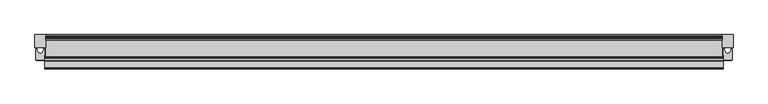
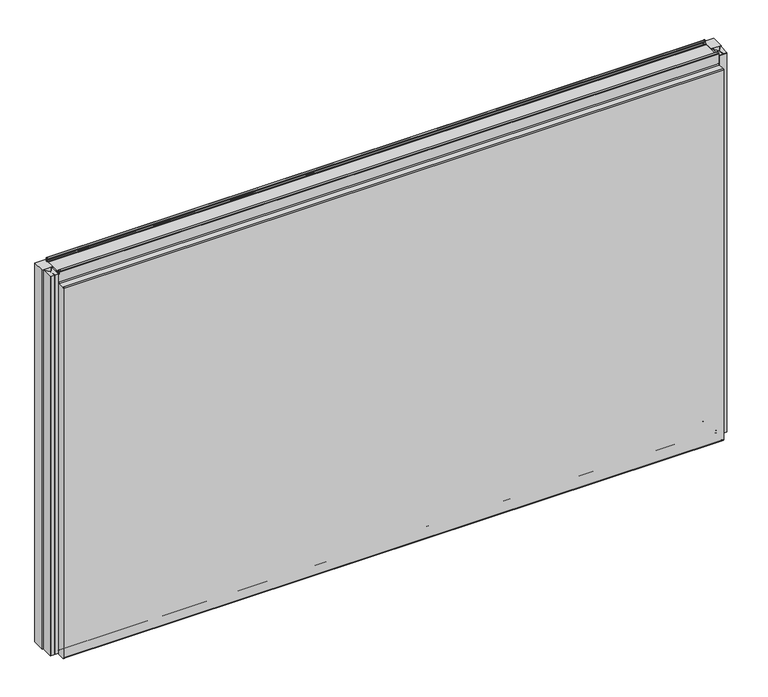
"""IFC4 building model written with IfcOpenShell, lengths in millimetres: plate geometry, Fronttop : Fronttop 100/1200."""

import ifcopenshell
import ifcopenshell.guid

model = None  # the IFC model being written
_history = None  # IfcOwnerHistory: only IFC2X3 demands one
_inside = {}  # id of a spatial element -> (the spatial element, [elements in it])
_under = {}  # id of a project, library or spatial element -> (it, [spatial elements below it])
_declared = {}  # id of a project -> (the project, [libraries it declares])
_typed = {}  # id of a type object -> (the type object, [elements of that type])
_made_of = {}  # id of a material, layer set ... -> (it, [elements and type objects made of it])


def new_model(schema):
    """Start an empty IFC model of exactly this schema.

    Asked for "IFC4X3", IfcOpenShell would pick the latest addendum, in which some entities
    have other attributes; the version numbers below select the first issue.
    IFC2X3 requires an IfcOwnerHistory on every rooted entity: one is made here for all.
    """
    global model, _history
    if schema == "IFC4X3":
        model = ifcopenshell.file(schema_version=(4, 3, 0, 0))
    else:
        model = ifcopenshell.file(schema=schema)
    _inside.clear()
    _under.clear()
    _declared.clear()
    _typed.clear()
    _made_of.clear()
    _history = None
    if model.schema == "IFC2X3":
        org = make("IfcOrganization", Name="unknown")
        user = make(
            "IfcPersonAndOrganization",
            ThePerson=make("IfcPerson", FamilyName="unknown"),
            TheOrganization=org,
        )
        app = make(
            "IfcApplication",
            ApplicationDeveloper=org,
            Version="unknown",
            ApplicationFullName="unknown",
            ApplicationIdentifier="unknown",
        )
        _history = make(
            "IfcOwnerHistory",
            OwningUser=user,
            OwningApplication=app,
            ChangeAction="ADDED",
            CreationDate=0,
        )
    return model


def make(cls, **values):
    """One entity of the class cls with the attributes given. An attribute that is None is left unset."""
    return model.create_entity(
        cls, **{name: value for name, value in values.items() if value is not None}
    )


def rooted(cls, **values):
    """An entity with a GlobalId (a new one), such as an element, a storey or a relation."""
    return make(cls, GlobalId=ifcopenshell.guid.new(), OwnerHistory=_history, **values)


def si_unit(unit_type, name, prefix=None):
    """IfcSIUnit, for example si_unit("LENGTHUNIT", "METRE", prefix="MILLI")."""
    return make("IfcSIUnit", UnitType=unit_type, Prefix=prefix, Name=name)


def assignment(units):
    """IfcUnitAssignment: the units of a project."""
    return None if units is None else make("IfcUnitAssignment", Units=units)


def point(xyz):
    """IfcCartesianPoint."""
    return None if xyz is None else make("IfcCartesianPoint", Coordinates=xyz)


def direction(xyz):
    """IfcDirection."""
    return None if xyz is None else make("IfcDirection", DirectionRatios=xyz)


def frame(location, z_axis=None, x_axis=None):
    """IfcAxis2Placement3D, a coordinate frame: its origin and axes. An axis left out is left unset."""
    return make(
        "IfcAxis2Placement3D",
        Location=point(location),
        Axis=direction(z_axis),
        RefDirection=direction(x_axis),
    )


def frame_2d(location, x_axis=None):
    """IfcAxis2Placement2D, a coordinate frame in the plane: its origin and x axis."""
    return make(
        "IfcAxis2Placement2D", Location=point(location), RefDirection=direction(x_axis)
    )


def origin():
    """The frame at (0, 0, 0) with its axes left unset."""
    return frame((0.0, 0.0, 0.0))


def origin_with_axes():
    """The frame at (0, 0, 0) with the z axis (0, 0, 1) and the x axis (1, 0, 0) written out."""
    return frame((0.0, 0.0, 0.0), z_axis=(0.0, 0.0, 1.0), x_axis=(1.0, 0.0, 0.0))


def place(relative_to, where):
    """IfcLocalPlacement: puts the frame where relative to a parent placement (None: the world)."""
    return make(
        "IfcLocalPlacement", PlacementRelTo=relative_to, RelativePlacement=where
    )


def context(
    kind, dimensions, precision=None, world=None, true_north=None, identifier=None
):
    """IfcGeometricRepresentationContext, for example the 3D "Model" context."""
    return make(
        "IfcGeometricRepresentationContext",
        ContextIdentifier=identifier,
        ContextType=kind,
        CoordinateSpaceDimension=dimensions,
        Precision=precision,
        WorldCoordinateSystem=world,
        TrueNorth=true_north,
    )


def project(units=None, contexts=None):
    """IfcProject with its units and contexts."""
    return rooted(
        "IfcProject",
        Name="project",
        RepresentationContexts=contexts,
        UnitsInContext=assignment(units),
    )


def spatial(cls, under=None, at=None, **own):
    """A site, building, storey or space (cls), placed at a placement, below another one or the project."""
    s = rooted(cls, ObjectPlacement=at, **own)
    if under is not None:
        _under.setdefault(under.id(), (under, []))[1].append(s)
    return s


def polyline(points):
    """IfcPolyline through the points."""
    return make("IfcPolyline", Points=[point(p) for p in points])


def circle_curve(where, radius):
    """IfcCircle in the frame where."""
    return make("IfcCircle", Position=where, Radius=radius)


def trimmed(basis, trim1, trim2, sense, master):
    """IfcTrimmedCurve: the piece of a basis curve between two trims."""
    return make(
        "IfcTrimmedCurve",
        BasisCurve=basis,
        Trim1=trim1,
        Trim2=trim2,
        SenseAgreement=sense,
        MasterRepresentation=master,
    )


def segment(curve, same_sense, transition):
    """IfcCompositeCurveSegment."""
    return make(
        "IfcCompositeCurveSegment",
        Transition=transition,
        SameSense=same_sense,
        ParentCurve=curve,
    )


def composite_curve(segments, self_intersect=None):
    """IfcCompositeCurve: segments joined end to end."""
    return make("IfcCompositeCurve", Segments=segments, SelfIntersect=self_intersect)


def outline(outer, holes=None, kind="AREA"):
    """IfcArbitraryClosedProfileDef: a profile drawn as a closed curve; with holes, ...WithVoids."""
    if holes is None:
        return make("IfcArbitraryClosedProfileDef", ProfileType=kind, OuterCurve=outer)
    return make(
        "IfcArbitraryProfileDefWithVoids",
        ProfileType=kind,
        OuterCurve=outer,
        InnerCurves=holes,
    )


def extrude(swept, where, along, depth):
    """IfcExtrudedAreaSolid: the profile swept, set in the frame where, extruded along a direction by depth."""
    return make(
        "IfcExtrudedAreaSolid",
        SweptArea=swept,
        Position=where,
        ExtrudedDirection=direction(along),
        Depth=depth,
    )


def shape(context_of_items, identifier, shape_type, items):
    """IfcShapeRepresentation: the items that make up one representation, for example the "Body"."""
    return make(
        "IfcShapeRepresentation",
        ContextOfItems=context_of_items,
        RepresentationIdentifier=identifier,
        RepresentationType=shape_type,
        Items=items,
    )


def source(mapping_origin, context_of_items, identifier, shape_type, items):
    """IfcRepresentationMap: a shape defined once, which mapped items show again and again."""
    return make(
        "IfcRepresentationMap",
        MappingOrigin=mapping_origin,
        MappedRepresentation=shape(context_of_items, identifier, shape_type, items),
    )


def transform(
    local_origin,
    x_axis=None,
    y_axis=None,
    z_axis=None,
    scale=None,
    scale2=None,
    scale3=None,
    uniform=True,
):
    """IfcCartesianTransformationOperator3D, or its non-uniform kind. x_axis, y_axis, z_axis: its Axis1, 2, 3."""
    if uniform:
        return make(
            "IfcCartesianTransformationOperator3D",
            Axis1=direction(x_axis),
            Axis2=direction(y_axis),
            LocalOrigin=point(local_origin),
            Scale=scale,
            Axis3=direction(z_axis),
        )
    return make(
        "IfcCartesianTransformationOperator3DnonUniform",
        Axis1=direction(x_axis),
        Axis2=direction(y_axis),
        LocalOrigin=point(local_origin),
        Scale=scale,
        Axis3=direction(z_axis),
        Scale2=scale2,
        Scale3=scale3,
    )


def mapped(mapping_source, mapping_target):
    """IfcMappedItem: shows the shape of a source again, moved by a transform."""
    return make(
        "IfcMappedItem", MappingSource=mapping_source, MappingTarget=mapping_target
    )


def made_of(thing, what):
    """Note that an element or type object is made of a material, layer set ...; save() writes the relation."""
    if what is not None:
        _made_of.setdefault(what.id(), (what, []))[1].append(thing)
    return thing


def element(
    cls,
    number,
    at=None,
    inside=None,
    cuts=None,
    type_object=None,
    material=None,
    context=None,
    identifier="Body",
    shape_type=None,
    held_by="IfcProductDefinitionShape",
    body=None,
    shapes=None,
    **own,
):
    """One element of the class cls, such as IfcWall. Its Tag is "e" and its number.

    at: its placement. inside: the storey or other place that contains it. cuts: it is an
    opening in that element (IfcRelVoidsElement). A single representation is given by context,
    identifier, shape_type and body (its items); several are given by shapes. held_by: the class
    of the entity that holds the representations. save() writes the other relations.
    """
    e = rooted(cls, Tag="e%d" % number, ObjectPlacement=at, **own)
    if body is not None:
        shapes = [shape(context, identifier, shape_type, body)]
    if shapes is not None:
        e.Representation = make(held_by, Representations=shapes)
    if inside is not None:
        _inside.setdefault(inside.id(), (inside, []))[1].append(e)
    if cuts is not None:
        rooted(
            "IfcRelVoidsElement", RelatingBuildingElement=cuts, RelatedOpeningElement=e
        )
    if type_object is not None:
        _typed.setdefault(type_object.id(), (type_object, []))[1].append(e)
    return made_of(e, material)


def aggregate(whole, parts):
    """IfcRelAggregates: a whole, such as a stair, and the parts it consists of."""
    return rooted("IfcRelAggregates", RelatingObject=whole, RelatedObjects=parts)


def save(model, path):
    """Write the relations noted so far, then the file.

    IfcRelAggregates (storeys below a building ...), IfcRelContainedInSpatialStructure (elements
    in a storey), IfcRelDefinesByType, IfcRelAssociatesMaterial and IfcRelDeclares: one each for
    every whole, place, type object, material and project.
    """
    for whole, parts in _under.values():
        aggregate(whole, parts)
    for where, things in _inside.values():
        rooted(
            "IfcRelContainedInSpatialStructure",
            RelatedElements=things,
            RelatingStructure=where,
        )
    for kind, things in _typed.values():
        rooted("IfcRelDefinesByType", RelatedObjects=things, RelatingType=kind)
    for what, things in _made_of.values():
        rooted("IfcRelAssociatesMaterial", RelatedObjects=things, RelatingMaterial=what)
    for by, libraries in _declared.values():
        rooted("IfcRelDeclares", RelatingContext=by, RelatedDefinitions=libraries)
    model.write(path)


def plane_surface(at):
    """IfcPlane: the flat surface through the origin of the frame at, square to its z axis."""
    return make("IfcPlane", Position=at)


def cylinder_surface(at, radius):
    """IfcCylindricalSurface: all points at the distance radius from the z axis of the frame at."""
    return make("IfcCylindricalSurface", Position=at, Radius=radius)


def revolved_surface(curve, axis_point, axis_direction):
    """IfcSurfaceOfRevolution: the curve turned about the line through axis_point along axis_direction."""
    return make(
        "IfcSurfaceOfRevolution",
        SweptCurve=make("IfcArbitraryOpenProfileDef", ProfileType="CURVE", Curve=curve),
        AxisPosition=make("IfcAxis1Placement", Location=point(axis_point), Axis=direction(axis_direction)),
    )


def advanced_brep(points, edges, surfaces, faces):
    """IfcAdvancedBrep: a solid bounded by faces that lie on surfaces and meet in shared edges.

    An edge is (start, end): straight between two places in points (the first is 0);
    or (start, end, curve); or (start, end, curve, False) where it runs against its curve.
    A face is (place in surfaces, loops), or (place, loops, False) where it looks against
    its surface's normal. A loop lists edges by number (the first is 1), with a minus sign
    where the edge is run from its end to its start. The first loop is the outer one.
    """
    corners = [point(p) for p in points]
    vertices = [make("IfcVertexPoint", VertexGeometry=c) for c in corners]
    made = []
    for start, end, *more in edges:
        made.append(
            make(
                "IfcEdgeCurve",
                EdgeStart=vertices[start],
                EdgeEnd=vertices[end],
                EdgeGeometry=more[0] if more else make("IfcPolyline", Points=[corners[start], corners[end]]),
                SameSense=more[1] if len(more) > 1 else True,
            )
        )
    hull = []
    for where, loops, *sense in faces:
        bounds = []
        for j, loop in enumerate(loops):
            ring = [make("IfcOrientedEdge", EdgeElement=made[abs(k) - 1], Orientation=k > 0) for k in loop]
            bounds.append(
                make(
                    "IfcFaceOuterBound" if j == 0 else "IfcFaceBound",
                    Bound=make("IfcEdgeLoop", EdgeList=ring),
                    Orientation=True,
                )
            )
        hull.append(make("IfcAdvancedFace", Bounds=bounds, FaceSurface=surfaces[where], SameSense=sense[0] if sense else True))
    return make("IfcAdvancedBrep", Outer=make("IfcClosedShell", CfsFaces=hull))


def plate_79874e8c(model_context):
    return source(origin(), model_context, "Body", "SolidModel", [
        advanced_brep(
        [(-986.5, -74.0, 1208.0), (-986.5, -74.0, 1200.0), (-986.5, -75.0, 1200.0), (-986.5, -75.0, 1208.0), (-986.5, -70.0, 1208.0), (-986.5, -70.0, 1204.0), (-986.5, -67.0, 1201.0), (-986.5, -65.0, 1201.0), (-986.5, -65.0, 1200.0), (-986.5, -67.0, 1200.0), (-986.5, -71.0, 1204.0), (-986.5, -71.0, 1208.0), (986.5, -75.0, 1208.0), (986.5, -75.0, 1200.0), (986.5, -74.0, 1200.0), (986.5, -74.0, 1208.0), (986.5, -71.0, 1208.0), (986.5, -71.0, 1204.0), (986.5, -67.0, 1200.0), (986.5, -65.0, 1200.0), (986.5, -65.0, 1201.0), (986.5, -67.0, 1201.0), (986.5, -70.0, 1204.0), (986.5, -70.0, 1208.0), (-986.5, -67.0, 2.0), (-986.5, -65.0, 2.0), (986.5, -65.0, 2.0), (986.5, -67.0, 2.0), (986.5, -69.0, 4.0), (-986.5, -69.0, 4.0), (986.5, -69.0, 8.0), (-986.5, -69.0, 8.0), (986.5, -76.0, 8.0), (-986.5, -76.0, 8.0), (986.5, -76.0, 0.0), (-986.5, -76.0, 0.0), (986.5, -79.0, -3.0), (-986.5, -79.0, -3.0), (986.5, -75.0, -3.0), (987.5, -75.0, -3.0), (987.5, -97.0, -3.0), (986.5, -97.0, -3.0), (-986.5, -97.0, -3.0), (-987.5, -97.0, -3.0), (-987.5, -75.0, -3.0), (-986.5, -75.0, -3.0), (986.5, -100.0, 0.0), (-986.5, -100.0, 0.0), (987.5, -100.0, 0.0), (987.5, -100.0, 1169.0), (986.5, -100.0, 1169.0), (-986.5, -100.0, 1169.0), (-987.5, -100.0, 1169.0), (-987.5, -100.0, 0.0), (986.5, -97.0, 1172.0), (-986.5, -97.0, 1172.0), (987.5, -97.0, 1172.0), (987.5, -78.0, 1172.0), (986.5, -78.0, 1172.0), (-986.5, -78.0, 1172.0), (-987.5, -78.0, 1172.0), (-987.5, -97.0, 1172.0), (986.5, -75.0, 1175.0), (-986.5, -75.0, 1175.0), (987.5, -75.0, 1175.0), (987.5, -75.0, 1200.0), (-987.5, -75.0, 1200.0), (-987.5, -75.0, 1175.0), (986.5, -74.0, 1175.0), (-986.5, -74.0, 1175.0), (986.5, -78.0, 1171.0), (-986.5, -78.0, 1171.0), (986.5, -97.0, 1171.0), (-986.5, -97.0, 1171.0), (986.5, -99.0, 1169.0), (-986.5, -99.0, 1169.0), (986.5, -99.0, 0.0), (-986.5, -99.0, 0.0), (986.5, -97.0, -2.0), (-986.5, -97.0, -2.0), (986.5, -79.0, -2.0), (-986.5, -79.0, -2.0), (986.5, -77.0, 0.0), (-986.5, -77.0, 0.0), (986.5, -77.0, 8.0), (-986.5, -77.0, 8.0), (986.5, -68.0, 8.0), (-986.5, -68.0, 8.0), (986.5, -68.0, 4.0), (-986.5, -68.0, 4.0), (986.5, -67.0, 3.0), (-986.5, -67.0, 3.0), (986.5, -65.0, 3.0), (-986.5, -65.0, 3.0), (987.5, -75.0, 0.0), (987.5, -60.0, 0.0), (987.5, -60.0, 1200.0), (986.5, -60.0, 1200.0), (986.5, -60.0, 0.0), (986.5, -75.0, 0.0), (-987.5, -60.0, 1200.0), (-987.5, -60.0, 0.0), (-987.5, -75.0, 0.0), (-986.5, -60.0, 1200.0), (-986.5, -75.0, 0.0), (-986.5, -60.0, 0.0)],
        [
            (0, 1),
            (1, 2),
            (2, 3),
            (3, 4, circle_curve(frame((-986.5, -72.5, 1208.0), z_axis=(-1.0, 0.0, 0.0), x_axis=(0.0, 1.0, 0.0)), 2.5)),
            (4, 5),
            (5, 6, circle_curve(frame((-986.5, -67.0, 1204.0), z_axis=(1.0, 0.0, 0.0), x_axis=(0.0, 1.0, 0.0)), 3.0)),
            (6, 7),
            (7, 8),
            (8, 9),
            (9, 10, circle_curve(frame((-986.5, -67.0, 1204.0), z_axis=(-1.0, 0.0, 0.0), x_axis=(0.0, 1.0, 0.0)), 4.0)),
            (10, 11),
            (11, 0, circle_curve(frame((-986.5, -72.5, 1208.0), z_axis=(1.0, 0.0, 0.0), x_axis=(0.0, 1.0, 0.0)), 1.5)),
            (12, 13),
            (13, 14),
            (14, 15),
            (15, 16, circle_curve(frame((986.5, -72.5, 1208.0), z_axis=(-1.0, 0.0, 0.0), x_axis=(0.0, 1.0, 0.0)), 1.5)),
            (16, 17),
            (17, 18, circle_curve(frame((986.5, -67.0, 1204.0), z_axis=(1.0, 0.0, 0.0), x_axis=(0.0, 1.0, 0.0)), 4.0)),
            (18, 19),
            (19, 20),
            (20, 21),
            (21, 22, circle_curve(frame((986.5, -67.0, 1204.0), z_axis=(-1.0, 0.0, 0.0), x_axis=(0.0, 1.0, 0.0)), 3.0)),
            (22, 23),
            (23, 12, circle_curve(frame((986.5, -72.5, 1208.0), z_axis=(1.0, 0.0, 0.0), x_axis=(0.0, 1.0, 0.0)), 2.5)),
            (24, 25),
            (25, 26),
            (26, 27),
            (27, 24),
            (27, 28, circle_curve(frame((986.5, -67.0, 4.0), z_axis=(-1.0, 0.0, 0.0), x_axis=(0.0, 1.0, 0.0)), 2.0)),
            (28, 29),
            (29, 24, circle_curve(frame((-986.5, -67.0, 4.0), z_axis=(1.0, 0.0, 0.0), x_axis=(0.0, 1.0, 0.0)), 2.0)),
            (28, 30),
            (30, 31),
            (31, 29),
            (30, 32, circle_curve(frame((986.5, -72.5, 8.0), z_axis=(1.0, 0.0, 0.0), x_axis=(0.0, 1.0, 0.0)), 3.5)),
            (32, 33),
            (33, 31, circle_curve(frame((-986.5, -72.5, 8.0), z_axis=(-1.0, 0.0, 0.0), x_axis=(0.0, 1.0, 0.0)), 3.5)),
            (32, 34),
            (34, 35),
            (35, 33),
            (34, 36, circle_curve(frame((986.5, -79.0, 0.0), z_axis=(-1.0, 0.0, 0.0), x_axis=(0.0, 1.0, 0.0)), 3.0)),
            (36, 37),
            (37, 35, circle_curve(frame((-986.5, -79.0, 0.0), z_axis=(1.0, 0.0, 0.0), x_axis=(0.0, 1.0, 0.0)), 3.0)),
            (36, 38),
            (38, 39),
            (39, 40),
            (40, 41),
            (41, 42),
            (42, 43),
            (43, 44),
            (44, 45),
            (45, 37),
            (41, 46, circle_curve(frame((986.5, -97.0, 0.0), z_axis=(-1.0, 0.0, 0.0), x_axis=(0.0, 1.0, 0.0)), 3.0)),
            (46, 47),
            (47, 42, circle_curve(frame((-986.5, -97.0, 0.0), z_axis=(1.0, 0.0, 0.0), x_axis=(0.0, 1.0, 0.0)), 3.0)),
            (46, 48),
            (48, 49),
            (49, 50),
            (50, 51),
            (51, 52),
            (52, 53),
            (53, 47),
            (50, 54, circle_curve(frame((986.5, -97.0, 1169.0), z_axis=(-1.0, 0.0, 0.0), x_axis=(0.0, 1.0, 0.0)), 3.0)),
            (54, 55),
            (55, 51, circle_curve(frame((-986.5, -97.0, 1169.0), z_axis=(1.0, 0.0, 0.0), x_axis=(0.0, 1.0, 0.0)), 3.0)),
            (54, 56),
            (56, 57),
            (57, 58),
            (58, 59),
            (59, 60),
            (60, 61),
            (61, 55),
            (58, 62, circle_curve(frame((986.5, -78.0, 1175.0), z_axis=(1.0, 0.0, 0.0), x_axis=(0.0, 1.0, 0.0)), 3.0)),
            (62, 63),
            (63, 59, circle_curve(frame((-986.5, -78.0, 1175.0), z_axis=(-1.0, 0.0, 0.0), x_axis=(0.0, 1.0, 0.0)), 3.0)),
            (62, 64),
            (64, 65),
            (65, 13),
            (12, 3),
            (2, 66),
            (66, 67),
            (67, 63),
            (23, 4),
            (22, 5),
            (21, 6),
            (20, 7),
            (19, 8),
            (19, 18),
            (18, 9),
            (9, 8),
            (17, 10),
            (16, 11),
            (15, 0),
            (14, 68),
            (68, 69),
            (69, 1),
            (68, 70, circle_curve(frame((986.5, -78.0, 1175.0), z_axis=(-1.0, 0.0, 0.0), x_axis=(0.0, 1.0, 0.0)), 4.0)),
            (70, 71),
            (71, 69, circle_curve(frame((-986.5, -78.0, 1175.0), z_axis=(1.0, 0.0, 0.0), x_axis=(0.0, 1.0, 0.0)), 4.0)),
            (70, 72),
            (72, 73),
            (73, 71),
            (72, 74, circle_curve(frame((986.5, -97.0, 1169.0), z_axis=(1.0, 0.0, 0.0), x_axis=(0.0, 1.0, 0.0)), 2.0)),
            (74, 75),
            (75, 73, circle_curve(frame((-986.5, -97.0, 1169.0), z_axis=(-1.0, 0.0, 0.0), x_axis=(0.0, 1.0, 0.0)), 2.0)),
            (74, 76),
            (76, 77),
            (77, 75),
            (76, 78, circle_curve(frame((986.5, -97.0, 0.0), z_axis=(1.0, 0.0, 0.0), x_axis=(0.0, 1.0, 0.0)), 2.0)),
            (78, 79),
            (79, 77, circle_curve(frame((-986.5, -97.0, 0.0), z_axis=(-1.0, 0.0, 0.0), x_axis=(0.0, 1.0, 0.0)), 2.0)),
            (78, 80),
            (80, 81),
            (81, 79),
            (80, 82, circle_curve(frame((986.5, -79.0, 0.0), z_axis=(1.0, 0.0, 0.0), x_axis=(0.0, 1.0, 0.0)), 2.0)),
            (82, 83),
            (83, 81, circle_curve(frame((-986.5, -79.0, 0.0), z_axis=(-1.0, 0.0, 0.0), x_axis=(0.0, 1.0, 0.0)), 2.0)),
            (82, 84),
            (84, 85),
            (85, 83),
            (84, 86, circle_curve(frame((986.5, -72.5, 8.0), z_axis=(-1.0, 0.0, 0.0), x_axis=(0.0, 1.0, 0.0)), 4.5)),
            (86, 87),
            (87, 85, circle_curve(frame((-986.5, -72.5, 8.0), z_axis=(1.0, 0.0, 0.0), x_axis=(0.0, 1.0, 0.0)), 4.5)),
            (86, 88),
            (88, 89),
            (89, 87),
            (88, 90, circle_curve(frame((986.5, -67.0, 4.0), z_axis=(1.0, 0.0, 0.0), x_axis=(0.0, 1.0, 0.0)), 1.0)),
            (90, 91),
            (91, 89, circle_curve(frame((-986.5, -67.0, 4.0), z_axis=(-1.0, 0.0, 0.0), x_axis=(0.0, 1.0, 0.0)), 1.0)),
            (90, 92),
            (92, 93),
            (93, 91),
            (25, 93),
            (92, 26),
            (64, 57, circle_curve(frame((987.5, -78.0, 1175.0), z_axis=(-1.0, 0.0, 0.0), x_axis=(0.0, -1.0, 0.0)), 3.0)),
            (56, 49, circle_curve(frame((987.5, -97.0, 1169.0), z_axis=(1.0, 0.0, 0.0), x_axis=(0.0, -1.0, 0.0)), 3.0)),
            (48, 40, circle_curve(frame((987.5, -97.0, 0.0), z_axis=(1.0, 0.0, 0.0), x_axis=(0.0, -1.0, 0.0)), 3.0)),
            (39, 94),
            (94, 95),
            (95, 96),
            (96, 65),
            (14, 18),
            (19, 97),
            (97, 98),
            (98, 99),
            (99, 38),
            (96, 97),
            (95, 98),
            (94, 99),
            (66, 100),
            (100, 101),
            (101, 102),
            (102, 44),
            (43, 53, circle_curve(frame((-987.5, -97.0, 0.0), z_axis=(-1.0, 0.0, 0.0), x_axis=(0.0, -1.0, 0.0)), 3.0)),
            (52, 61, circle_curve(frame((-987.5, -97.0, 1169.0), z_axis=(-1.0, 0.0, 0.0), x_axis=(0.0, -1.0, 0.0)), 3.0)),
            (60, 67, circle_curve(frame((-987.5, -78.0, 1175.0), z_axis=(1.0, 0.0, 0.0), x_axis=(0.0, -1.0, 0.0)), 3.0)),
            (103, 8),
            (9, 1),
            (45, 104),
            (104, 105),
            (105, 103),
            (103, 100),
            (105, 101),
            (104, 102),
        ],
        [
            plane_surface(frame((-986.5, 0.0, 0.0), z_axis=(-1.0, 0.0, 0.0), x_axis=(0.0, 0.0, 1.0))),
            plane_surface(frame((986.5, 0.0, 0.0), z_axis=(1.0, 0.0, 0.0), x_axis=(0.0, 0.0, 1.0))),
            plane_surface(frame((-986.5, -67.0, 2.0), z_axis=(0.0, 0.0, -1.0), x_axis=(1.0, 0.0, 0.0))),
            cylinder_surface(frame((-986.5, -67.0, 4.0), z_axis=(-1.0, 0.0, 0.0), x_axis=(0.0, 1.0, 0.0)), 2.0),
            plane_surface(frame((-986.5, -69.0, 8.0), z_axis=(0.0, -1.0, 0.0), x_axis=(1.0, 0.0, 0.0))),
            revolved_surface(polyline([(986.5, -69.0, 8.0), (-986.5, -69.0, 8.0)]), (-986.5, -72.5, 8.0), (1.0, 0.0, 0.0)),
            plane_surface(frame((-986.5, -76.0, 0.0), z_axis=(0.0, 1.0, 0.0), x_axis=(1.0, 0.0, 0.0))),
            cylinder_surface(frame((-986.5, -79.0, 0.0), z_axis=(-1.0, 0.0, 0.0), x_axis=(0.0, 1.0, 0.0)), 3.0),
            plane_surface(frame((-986.5, -97.0, -3.0), z_axis=(0.0, 0.0, -1.0), x_axis=(1.0, 0.0, 0.0))),
            cylinder_surface(frame((-986.5, -97.0, 0.0), z_axis=(-1.0, 0.0, 0.0), x_axis=(0.0, 1.0, 0.0)), 3.0),
            plane_surface(frame((-986.5, -100.0, 1169.0), z_axis=(0.0, -1.0, 0.0), x_axis=(1.0, 0.0, 0.0))),
            cylinder_surface(frame((-986.5, -97.0, 1169.0), z_axis=(-1.0, 0.0, 0.0), x_axis=(0.0, 1.0, 0.0)), 3.0),
            plane_surface(frame((-986.5, -78.0, 1172.0), z_axis=(0.0, 0.0, 1.0), x_axis=(1.0, 0.0, 0.0))),
            revolved_surface(polyline([(986.5, -75.0, 1175.0), (-986.5, -75.0, 1175.0)]), (-986.5, -78.0, 1175.0), (1.0, 0.0, 0.0)),
            plane_surface(frame((-986.5, -75.0, 1208.0), z_axis=(0.0, -1.0, 0.0), x_axis=(1.0, 0.0, 0.0))),
            cylinder_surface(frame((-986.5, -72.5, 1208.0), z_axis=(-1.0, 0.0, 0.0), x_axis=(0.0, 1.0, 0.0)), 2.5),
            plane_surface(frame((-986.5, -70.0, 1204.0), z_axis=(0.0, 1.0, 0.0), x_axis=(1.0, 0.0, 0.0))),
            revolved_surface(polyline([(986.5, -64.0, 1204.0), (-986.5, -64.0, 1204.0)]), (-986.5, -67.0, 1204.0), (1.0, 0.0, 0.0)),
            plane_surface(frame((-986.5, -65.0, 1201.0), z_axis=(0.0, 0.0, 1.0), x_axis=(1.0, 0.0, 0.0))),
            plane_surface(frame((-986.5, -65.0, 1200.0), z_axis=(0.0, 1.0, 0.0), x_axis=(1.0, 0.0, 0.0))),
            plane_surface(frame((-986.5, -67.0, 1200.0), z_axis=(0.0, 0.0, -1.0), x_axis=(1.0, 0.0, 0.0))),
            cylinder_surface(frame((-986.5, -67.0, 1204.0), z_axis=(-1.0, 0.0, 0.0), x_axis=(0.0, 1.0, 0.0)), 4.0),
            plane_surface(frame((-986.5, -71.0, 1208.0), z_axis=(0.0, -1.0, 0.0), x_axis=(1.0, 0.0, 0.0))),
            revolved_surface(polyline([(986.5, -71.0, 1208.0), (-986.5, -71.0, 1208.0)]), (-986.5, -72.5, 1208.0), (1.0, 0.0, 0.0)),
            plane_surface(frame((-986.5, -74.0, 1175.0), z_axis=(0.0, 1.0, 0.0), x_axis=(1.0, 0.0, 0.0))),
            cylinder_surface(frame((-986.5, -78.0, 1175.0), z_axis=(-1.0, 0.0, 0.0), x_axis=(0.0, 1.0, 0.0)), 4.0),
            plane_surface(frame((-986.5, -97.0, 1171.0), z_axis=(0.0, 0.0, -1.0), x_axis=(1.0, 0.0, 0.0))),
            revolved_surface(polyline([(986.5, -95.0, 1169.0), (-986.5, -95.0, 1169.0)]), (-986.5, -97.0, 1169.0), (1.0, 0.0, 0.0)),
            plane_surface(frame((-986.5, -99.0, 0.0), z_axis=(0.0, 1.0, 0.0), x_axis=(1.0, 0.0, 0.0))),
            revolved_surface(polyline([(986.5, -95.0, 0.0), (-986.5, -95.0, 0.0)]), (-986.5, -97.0, 0.0), (1.0, 0.0, 0.0)),
            plane_surface(frame((-986.5, -79.0, -2.0), z_axis=(0.0, 0.0, 1.0), x_axis=(1.0, 0.0, 0.0))),
            revolved_surface(polyline([(986.5, -77.0, 0.0), (-986.5, -77.0, 0.0)]), (-986.5, -79.0, 0.0), (1.0, 0.0, 0.0)),
            plane_surface(frame((-986.5, -77.0, 8.0), z_axis=(0.0, -1.0, 0.0), x_axis=(1.0, 0.0, 0.0))),
            cylinder_surface(frame((-986.5, -72.5, 8.0), z_axis=(-1.0, 0.0, 0.0), x_axis=(0.0, 1.0, 0.0)), 4.5),
            plane_surface(frame((-986.5, -68.0, 4.0), z_axis=(0.0, 1.0, 0.0), x_axis=(1.0, 0.0, 0.0))),
            revolved_surface(polyline([(986.5, -66.0, 4.0), (-986.5, -66.0, 4.0)]), (-986.5, -67.0, 4.0), (1.0, 0.0, 0.0)),
            plane_surface(frame((-986.5, -65.0, 3.0), z_axis=(0.0, 0.0, 1.0), x_axis=(1.0, 0.0, 0.0))),
            plane_surface(frame((-986.5, -65.0, 2.0), z_axis=(0.0, 1.0, 0.0), x_axis=(1.0, 0.0, 0.0))),
            plane_surface(frame((987.5, -75.0, 1200.0), z_axis=(1.0, 0.0, 0.0), x_axis=(0.0, 1.0, 0.0))),
            plane_surface(frame((986.5, -75.0, 1200.0), z_axis=(-1.0, 0.0, 0.0), x_axis=(0.0, -1.0, 0.0))),
            plane_surface(frame((987.5, -75.0, 1200.0), z_axis=(0.0, 0.0, 1.0), x_axis=(-1.0, 0.0, 0.0))),
            plane_surface(frame((987.5, -60.0, 1200.0), z_axis=(0.0, 1.0, 0.0), x_axis=(-1.0, 0.0, 0.0))),
            plane_surface(frame((987.5, -60.0, 0.0), z_axis=(0.0, 0.0, -1.0), x_axis=(-1.0, 0.0, 0.0))),
            cylinder_surface(frame((986.5, -97.0, 0.0), z_axis=(1.0, 0.0, 0.0), x_axis=(0.0, -1.0, 0.0)), 3.0),
            cylinder_surface(frame((986.5, -97.0, 1169.0), z_axis=(1.0, 0.0, 0.0), x_axis=(0.0, -1.0, 0.0)), 3.0),
            revolved_surface(polyline([(986.5, -81.0, 1175.0), (987.5, -81.0, 1175.0)]), (986.5, -78.0, 1175.0), (-1.0, 0.0, 0.0)),
            plane_surface(frame((-987.5, -75.0, 1200.0), z_axis=(-1.0, 0.0, 0.0), x_axis=(0.0, -1.0, 0.0))),
            plane_surface(frame((-986.5, -75.0, 1200.0), z_axis=(1.0, 0.0, 0.0), x_axis=(0.0, 1.0, 0.0))),
            plane_surface(frame((-986.5, -75.0, 1200.0), z_axis=(0.0, 0.0, 1.0), x_axis=(-1.0, 0.0, 0.0))),
            plane_surface(frame((-986.5, -60.0, 1200.0), z_axis=(0.0, 1.0, 0.0), x_axis=(-1.0, 0.0, 0.0))),
            plane_surface(frame((-986.5, -60.0, 0.0), z_axis=(0.0, 0.0, -1.0), x_axis=(-1.0, 0.0, 0.0))),
            cylinder_surface(frame((-987.5, -97.0, 0.0), z_axis=(1.0, 0.0, 0.0), x_axis=(0.0, -1.0, 0.0)), 3.0),
            cylinder_surface(frame((-987.5, -97.0, 1169.0), z_axis=(1.0, 0.0, 0.0), x_axis=(0.0, -1.0, 0.0)), 3.0),
            revolved_surface(polyline([(-987.5, -81.0, 1175.0), (-986.5, -81.0, 1175.0)]), (-987.5, -78.0, 1175.0), (-1.0, 0.0, 0.0)),
            plane_surface(frame((987.5, -75.0, 0.0), z_axis=(0.0, 1.0, 0.0), x_axis=(-1.0, 0.0, 0.0))),
            plane_surface(frame((-986.5, -75.0, 0.0), z_axis=(0.0, 1.0, 0.0), x_axis=(-1.0, 0.0, 0.0))),
        ],
        [
            (0, [[1, 2, 3, 4, 5, 6, 7, 8, 9, 10, 11, 12]]),
            (1, [[13, 14, 15, 16, 17, 18, 19, 20, 21, 22, 23, 24]]),
            (2, [[25, 26, 27, 28]]),
            (3, [[29, 30, 31, -28]]),
            (4, [[32, 33, 34, -30]]),
            (5, [[35, 36, 37, -33]]),
            (6, [[38, 39, 40, -36]]),
            (7, [[41, 42, 43, -39]]),
            (8, [[44, 45, 46, 47, 48, 49, 50, 51, 52, -42]]),
            (9, [[53, 54, 55, -48]]),
            (10, [[56, 57, 58, 59, 60, 61, 62, -54]]),
            (11, [[63, 64, 65, -59]]),
            (12, [[66, 67, 68, 69, 70, 71, 72, -64]]),
            (13, [[73, 74, 75, -69]]),
            (14, [[76, 77, 78, -13, 79, -3, 80, 81, 82, -74]]),
            (15, [[-79, -24, 83, -4]]),
            (16, [[-83, -23, 84, -5]]),
            (17, [[-84, -22, 85, -6]]),
            (18, [[-85, -21, 86, -7]]),
            (19, [[-86, -20, 87, -8]]),
            (20, [[88, 89, 90, -87]]),
            (21, [[-89, -18, 91, -10]]),
            (22, [[-91, -17, 92, -11]]),
            (23, [[-92, -16, 93, -12]]),
            (24, [[-15, 94, 95, 96, -1, -93]]),
            (25, [[97, 98, 99, -95]]),
            (26, [[100, 101, 102, -98]]),
            (27, [[103, 104, 105, -101]]),
            (28, [[106, 107, 108, -104]]),
            (29, [[109, 110, 111, -107]]),
            (30, [[112, 113, 114, -110]]),
            (31, [[115, 116, 117, -113]]),
            (32, [[118, 119, 120, -116]]),
            (33, [[121, 122, 123, -119]]),
            (34, [[124, 125, 126, -122]]),
            (35, [[127, 128, 129, -125]]),
            (36, [[130, 131, 132, -128]]),
            (37, [[133, -131, 134, -26]]),
            (38, [[-77, 135, -67, 136, -57, 137, -46, 138, 139, 140, 141]]),
            (39, [[-44, -41, -38, -35, -32, -29, -27, -134, -130, -127, -124, -121, -118, -115, -112, -109, -106, -103, -100, -97, -94, 142, -88, 143, 144, 145, 146]]),
            (40, [[147, -143, -19, -142, -14, -78, -141]]),
            (41, [[148, -144, -147, -140]]),
            (42, [[149, -145, -148, -139]]),
            (43, [[-56, -53, -47, -137]]),
            (44, [[-66, -63, -58, -136]]),
            (45, [[-76, -73, -68, -135]]),
            (46, [[150, 151, 152, 153, -50, 154, -61, 155, -71, 156, -81]]),
            (47, [[157, -90, 158, -96, -99, -102, -105, -108, -111, -114, -117, -120, -123, -126, -129, -132, -133, -25, -31, -34, -37, -40, -43, -52, 159, 160, 161]]),
            (48, [[-80, -2, -158, -9, -157, 162, -150]]),
            (49, [[-162, -161, 163, -151]]),
            (50, [[-163, -160, 164, -152]]),
            (51, [[-49, -55, -62, -154]]),
            (52, [[-60, -65, -72, -155]]),
            (53, [[-70, -75, -82, -156]]),
            (54, [[-45, -146, -149, -138]]),
            (55, [[-164, -159, -51, -153]]),
        ],
    ),
        extrude(outline(composite_curve([segment(polyline([(-1012.5001545, -73.5), (-1012.5001545, -40.0), (-1009.75, -40.0), (-1009.75, -42.5)]), True, "CONTINUOUS"), segment(trimmed(circle_curve(frame_2d((-991.9661979, -39.3183984)), 18.0661619), [point((-1009.75, -42.5))], [point((-1000.0, -55.5))], True, "CARTESIAN"), True, "CONTINUOUS"), segment(trimmed(circle_curve(frame_2d((-1008.0338021, -39.3183984)), 18.0661619), [point((-1000.0, -55.5))], [point((-990.25, -42.5))], True, "CARTESIAN"), True, "CONTINUOUS"), segment(polyline([(-990.25, -42.5), (-990.25, -40.0), (-987.4998455, -40.0), (-987.4998455, -73.5), (-999.25, -73.5), (-999.25, -57.5), (-1000.75, -57.5), (-1000.75, -73.5), (-1012.5001545, -73.5)]), True, "CONTINUOUS")], self_intersect=False)), origin_with_axes(), (0.0, 0.0, 1.0), 1200.0),
        extrude(outline(polyline([(-984.5, 0.0), (-984.5, -38.0), (-1015.5, -38.0), (-1015.5, 0.0), (-984.5, 0.0)])), origin_with_axes(), (0.0, 0.0, 1.0), 1200.0),
        extrude(outline(polyline([(-1011.5051154, -75.0), (-1011.5051154, -73.5), (-1000.65, -73.5), (-1000.65, -59.0759655), (-999.3497504, -59.0759655), (-999.3497504, -73.5), (-988.4948846, -73.5), (-988.4948846, -75.0), (-1011.5051154, -75.0)])), origin_with_axes(), (0.0, 0.0, 1.0), 1200.0),
        extrude(outline(composite_curve([segment(polyline([(987.4998455, -73.5), (987.4998455, -40.0), (990.25, -40.0), (990.25, -42.5)]), True, "CONTINUOUS"), segment(trimmed(circle_curve(frame_2d((1008.0338021, -39.3183984)), 18.0661619), [point((990.25, -42.5))], [point((1000.0, -55.5))], True, "CARTESIAN"), True, "CONTINUOUS"), segment(trimmed(circle_curve(frame_2d((991.9661979, -39.3183984)), 18.0661619), [point((1000.0, -55.5))], [point((1009.75, -42.5))], True, "CARTESIAN"), True, "CONTINUOUS"), segment(polyline([(1009.75, -42.5), (1009.75, -40.0), (1012.5001545, -40.0), (1012.5001545, -73.5), (1000.75, -73.5), (1000.75, -57.5), (999.25, -57.5), (999.25, -73.5), (987.4998455, -73.5)]), True, "CONTINUOUS")], self_intersect=False)), origin_with_axes(), (0.0, 0.0, 1.0), 1200.0),
        extrude(outline(polyline([(1015.5, 0.0), (1015.5, -38.0), (984.5, -38.0), (984.5, 0.0), (1015.5, 0.0)])), origin_with_axes(), (0.0, 0.0, 1.0), 1200.0),
        extrude(outline(polyline([(988.4948846, -75.0), (988.4948846, -73.5), (999.35, -73.5), (999.35, -59.0759655), (1000.6502496, -59.0759655), (1000.6502496, -73.5), (1011.5051154, -73.5), (1011.5051154, -75.0), (988.4948846, -75.0)])), origin_with_axes(), (0.0, 0.0, 1.0), 1200.0),
        advanced_brep(
        [(-984.5, -13.0, 1201.0), (-984.5, -10.0, 1204.0), (-984.5, -10.0, 1208.0), (-984.5, -5.0, 1208.0), (-984.5, -5.0, 1199.5), (-984.5, -2.2239212, 1197.0152907), (-984.5, 0.0, 1195.0), (-984.5, 0.0, -0.5), (-984.5, -4.0, -0.5), (-984.5, -4.0, 8.0), (-984.5, -11.0, 8.0), (-984.5, -11.0, 4.0), (-984.5, -13.0, 2.0), (-984.5, -15.0, 2.0), (-984.5, -15.0, 3.0), (-984.5, -13.0, 3.0), (-984.5, -12.0, 4.0), (-984.5, -12.0, 8.0), (-984.5, -3.0, 8.0), (-984.5, -3.0, -0.5), (-984.5, -1.0, -0.5), (-984.5, -1.0, 1195.0), (-984.5, -2.1104315, 1195.9938837), (-984.5, -6.0, 1199.5), (-984.5, -6.0, 1208.0), (-984.5, -9.0, 1208.0), (-984.5, -9.0, 1204.0), (-984.5, -13.0, 1200.0), (-984.5, -15.0, 1200.0), (-984.5, -15.0, 1201.0), (984.5, -13.0, 1201.0), (984.5, -15.0, 1201.0), (984.5, -15.0, 1200.0), (984.5, -13.0, 1200.0), (984.5, -9.0, 1204.0), (984.5, -9.0, 1208.0), (984.5, -6.0, 1208.0), (984.5, -6.0, 1199.5), (984.5, -2.1134897, 1196.0214069), (984.5, -1.0, 1195.0), (984.5, -1.0, -0.5), (984.5, -3.0, -0.5), (984.5, -3.0, 8.0), (984.5, -12.0, 8.0), (984.5, -12.0, 4.0), (984.5, -13.0, 3.0), (984.5, -15.0, 3.0), (984.5, -15.0, 2.0), (984.5, -13.0, 2.0), (984.5, -11.0, 4.0), (984.5, -11.0, 8.0), (984.5, -4.0, 8.0), (984.5, -4.0, -0.5), (984.5, 0.0, -0.5), (984.5, 0.0, 1195.0), (984.5, -2.220863, 1196.9877675), (984.5, -5.0, 1199.5), (984.5, -5.0, 1208.0), (984.5, -10.0, 1208.0), (984.5, -10.0, 1204.0)],
        [
            (0, 1, circle_curve(frame((-984.5, -13.0, 1204.0), z_axis=(1.0, 0.0, 0.0), x_axis=(0.0, 1.0, 0.0)), 3.0)),
            (1, 2),
            (2, 3, circle_curve(frame((-984.5, -7.5, 1208.0), z_axis=(-1.0, 0.0, 0.0), x_axis=(0.0, 1.0, 0.0)), 2.5)),
            (3, 4),
            (4, 5, circle_curve(frame((-984.5, -2.5, 1199.5), z_axis=(1.0, 0.0, 0.0), x_axis=(0.0, 1.0, 0.0)), 2.5)),
            (5, 6, circle_curve(frame((-984.5, -2.0, 1195.0), z_axis=(-1.0, 0.0, 0.0), x_axis=(0.0, 1.0, 0.0)), 2.0)),
            (6, 7),
            (7, 8, circle_curve(frame((-984.5, -2.0, -0.5), z_axis=(-1.0, 0.0, 0.0), x_axis=(0.0, 1.0, 0.0)), 2.0)),
            (8, 9),
            (9, 10, circle_curve(frame((-984.5, -7.5, 8.0), z_axis=(1.0, 0.0, 0.0), x_axis=(0.0, 1.0, 0.0)), 3.5)),
            (10, 11),
            (11, 12, circle_curve(frame((-984.5, -13.0, 4.0), z_axis=(-1.0, 0.0, 0.0), x_axis=(0.0, 1.0, 0.0)), 2.0)),
            (12, 13),
            (13, 14),
            (14, 15),
            (15, 16, circle_curve(frame((-984.5, -13.0, 4.0), z_axis=(1.0, 0.0, 0.0), x_axis=(0.0, 1.0, 0.0)), 1.0)),
            (16, 17),
            (17, 18, circle_curve(frame((-984.5, -7.5, 8.0), z_axis=(-1.0, 0.0, 0.0), x_axis=(0.0, 1.0, 0.0)), 4.5)),
            (18, 19),
            (19, 20, circle_curve(frame((-984.5, -2.0, -0.5), z_axis=(1.0, 0.0, 0.0), x_axis=(0.0, 1.0, 0.0)), 1.0)),
            (20, 21),
            (21, 22, circle_curve(frame((-984.5, -2.0, 1195.0), z_axis=(1.0, 0.0, 0.0), x_axis=(0.0, 1.0, 0.0)), 1.0)),
            (22, 23, circle_curve(frame((-984.5, -2.5, 1199.5), z_axis=(-1.0, 0.0, 0.0), x_axis=(0.0, 1.0, 0.0)), 3.5)),
            (23, 24),
            (24, 25, circle_curve(frame((-984.5, -7.5, 1208.0), z_axis=(1.0, 0.0, 0.0), x_axis=(0.0, 1.0, 0.0)), 1.5)),
            (25, 26),
            (26, 27, circle_curve(frame((-984.5, -13.0, 1204.0), z_axis=(-1.0, 0.0, 0.0), x_axis=(0.0, 1.0, 0.0)), 4.0)),
            (27, 28),
            (28, 29),
            (29, 0),
            (30, 31),
            (31, 32),
            (32, 33),
            (33, 34, circle_curve(frame((984.5, -13.0, 1204.0), z_axis=(1.0, 0.0, 0.0), x_axis=(0.0, 1.0, 0.0)), 4.0)),
            (34, 35),
            (35, 36, circle_curve(frame((984.5, -7.5, 1208.0), z_axis=(-1.0, 0.0, 0.0), x_axis=(0.0, 1.0, 0.0)), 1.5)),
            (36, 37),
            (37, 38, circle_curve(frame((984.5, -2.5, 1199.5), z_axis=(1.0, 0.0, 0.0), x_axis=(0.0, 1.0, 0.0)), 3.5)),
            (38, 39, circle_curve(frame((984.5, -2.0, 1195.0), z_axis=(-1.0, 0.0, 0.0), x_axis=(0.0, 1.0, 0.0)), 1.0)),
            (39, 40),
            (40, 41, circle_curve(frame((984.5, -2.0, -0.5), z_axis=(-1.0, 0.0, 0.0), x_axis=(0.0, 1.0, 0.0)), 1.0)),
            (41, 42),
            (42, 43, circle_curve(frame((984.5, -7.5, 8.0), z_axis=(1.0, 0.0, 0.0), x_axis=(0.0, 1.0, 0.0)), 4.5)),
            (43, 44),
            (44, 45, circle_curve(frame((984.5, -13.0, 4.0), z_axis=(-1.0, 0.0, 0.0), x_axis=(0.0, 1.0, 0.0)), 1.0)),
            (45, 46),
            (46, 47),
            (47, 48),
            (48, 49, circle_curve(frame((984.5, -13.0, 4.0), z_axis=(1.0, 0.0, 0.0), x_axis=(0.0, 1.0, 0.0)), 2.0)),
            (49, 50),
            (50, 51, circle_curve(frame((984.5, -7.5, 8.0), z_axis=(-1.0, 0.0, 0.0), x_axis=(0.0, 1.0, 0.0)), 3.5)),
            (51, 52),
            (52, 53, circle_curve(frame((984.5, -2.0, -0.5), z_axis=(1.0, 0.0, 0.0), x_axis=(0.0, 1.0, 0.0)), 2.0)),
            (53, 54),
            (54, 55, circle_curve(frame((984.5, -2.0, 1195.0), z_axis=(1.0, 0.0, 0.0), x_axis=(0.0, 1.0, 0.0)), 2.0)),
            (55, 56, circle_curve(frame((984.5, -2.5, 1199.5), z_axis=(-1.0, 0.0, 0.0), x_axis=(0.0, 1.0, 0.0)), 2.5)),
            (56, 57),
            (57, 58, circle_curve(frame((984.5, -7.5, 1208.0), z_axis=(1.0, 0.0, 0.0), x_axis=(0.0, 1.0, 0.0)), 2.5)),
            (58, 59),
            (59, 30, circle_curve(frame((984.5, -13.0, 1204.0), z_axis=(-1.0, 0.0, 0.0), x_axis=(0.0, 1.0, 0.0)), 3.0)),
            (29, 31),
            (30, 0),
            (28, 32),
            (27, 33),
            (26, 34),
            (25, 35),
            (24, 36),
            (23, 37),
            (22, 38),
            (21, 39),
            (20, 40),
            (19, 41),
            (18, 42),
            (17, 43),
            (16, 44),
            (15, 45),
            (14, 46),
            (13, 47),
            (12, 48),
            (11, 49),
            (10, 50),
            (9, 51),
            (8, 52),
            (7, 53),
            (6, 54),
            (5, 55),
            (4, 56),
            (3, 57),
            (2, 58),
            (1, 59),
        ],
        [
            plane_surface(frame((-984.5, 0.0, 0.0), z_axis=(-1.0, 0.0, 0.0), x_axis=(0.0, 0.0, 1.0))),
            plane_surface(frame((984.5, 0.0, 0.0), z_axis=(1.0, 0.0, 0.0), x_axis=(0.0, 0.0, 1.0))),
            plane_surface(frame((-984.5, -13.0, 1201.0), z_axis=(0.0, 0.0, 1.0), x_axis=(1.0, 0.0, 0.0))),
            plane_surface(frame((-984.5, -15.0, 1201.0), z_axis=(0.0, -1.0, 0.0), x_axis=(1.0, 0.0, 0.0))),
            plane_surface(frame((-984.5, -15.0, 1200.0), z_axis=(0.0, 0.0, -1.0), x_axis=(1.0, 0.0, 0.0))),
            cylinder_surface(frame((-984.5, -13.0, 1204.0), z_axis=(-1.0, 0.0, 0.0), x_axis=(0.0, 1.0, 0.0)), 4.0),
            plane_surface(frame((-984.5, -9.0, 1204.0), z_axis=(0.0, 1.0, 0.0), x_axis=(1.0, 0.0, 0.0))),
            revolved_surface(polyline([(984.5, -6.0, 1208.0), (-984.5, -6.0, 1208.0)]), (-984.5, -7.5, 1208.0), (1.0, 0.0, 0.0)),
            plane_surface(frame((-984.5, -6.0, 1208.0), z_axis=(0.0, -1.0, 0.0), x_axis=(1.0, 0.0, 0.0))),
            cylinder_surface(frame((-984.5, -2.5, 1199.5), z_axis=(-1.0, 0.0, 0.0), x_axis=(0.0, 1.0, 0.0)), 3.5),
            revolved_surface(polyline([(984.5, -1.0, 1195.0), (-984.5, -1.0, 1195.0)]), (-984.5, -2.0, 1195.0), (1.0, 0.0, 0.0)),
            plane_surface(frame((-984.5, -1.0, 1195.0), z_axis=(0.0, -1.0, 0.0), x_axis=(1.0, 0.0, 0.0))),
            revolved_surface(polyline([(984.5, -1.0, -0.5), (-984.5, -1.0, -0.5)]), (-984.5, -2.0, -0.5), (1.0, 0.0, 0.0)),
            plane_surface(frame((-984.5, -3.0, -0.5), z_axis=(0.0, 1.0, 0.0), x_axis=(1.0, 0.0, 0.0))),
            cylinder_surface(frame((-984.5, -7.5, 8.0), z_axis=(-1.0, 0.0, 0.0), x_axis=(0.0, 1.0, 0.0)), 4.5),
            plane_surface(frame((-984.5, -12.0, 8.0), z_axis=(0.0, -1.0, 0.0), x_axis=(1.0, 0.0, 0.0))),
            revolved_surface(polyline([(984.5, -12.0, 4.0), (-984.5, -12.0, 4.0)]), (-984.5, -13.0, 4.0), (1.0, 0.0, 0.0)),
            plane_surface(frame((-984.5, -13.0, 3.0), z_axis=(0.0, 0.0, 1.0), x_axis=(1.0, 0.0, 0.0))),
            plane_surface(frame((-984.5, -15.0, 3.0), z_axis=(0.0, -1.0, 0.0), x_axis=(1.0, 0.0, 0.0))),
            plane_surface(frame((-984.5, -15.0, 2.0), z_axis=(0.0, 0.0, -1.0), x_axis=(1.0, 0.0, 0.0))),
            cylinder_surface(frame((-984.5, -13.0, 4.0), z_axis=(-1.0, 0.0, 0.0), x_axis=(0.0, 1.0, 0.0)), 2.0),
            plane_surface(frame((-984.5, -11.0, 4.0), z_axis=(0.0, 1.0, 0.0), x_axis=(1.0, 0.0, 0.0))),
            revolved_surface(polyline([(984.5, -4.0, 8.0), (-984.5, -4.0, 8.0)]), (-984.5, -7.5, 8.0), (1.0, 0.0, 0.0)),
            plane_surface(frame((-984.5, -4.0, 8.0), z_axis=(0.0, -1.0, 0.0), x_axis=(1.0, 0.0, 0.0))),
            cylinder_surface(frame((-984.5, -2.0, -0.5), z_axis=(-1.0, 0.0, 0.0), x_axis=(0.0, 1.0, 0.0)), 2.0),
            plane_surface(frame((-984.5, 0.0, -0.5), z_axis=(0.0, 1.0, 0.0), x_axis=(1.0, 0.0, 0.0))),
            cylinder_surface(frame((-984.5, -2.0, 1195.0), z_axis=(-1.0, 0.0, 0.0), x_axis=(0.0, 1.0, 0.0)), 2.0),
            revolved_surface(polyline([(984.5, 0.0, 1199.5), (-984.5, 0.0, 1199.5)]), (-984.5, -2.5, 1199.5), (1.0, 0.0, 0.0)),
            plane_surface(frame((-984.5, -5.0, 1199.5), z_axis=(0.0, 1.0, 0.0), x_axis=(1.0, 0.0, 0.0))),
            cylinder_surface(frame((-984.5, -7.5, 1208.0), z_axis=(-1.0, 0.0, 0.0), x_axis=(0.0, 1.0, 0.0)), 2.5),
            plane_surface(frame((-984.5, -10.0, 1208.0), z_axis=(0.0, -1.0, 0.0), x_axis=(1.0, 0.0, 0.0))),
            revolved_surface(polyline([(984.5, -10.0, 1204.0), (-984.5, -10.0, 1204.0)]), (-984.5, -13.0, 1204.0), (1.0, 0.0, 0.0)),
        ],
        [
            (0, [[1, 2, 3, 4, 5, 6, 7, 8, 9, 10, 11, 12, 13, 14, 15, 16, 17, 18, 19, 20, 21, 22, 23, 24, 25, 26, 27, 28, 29, 30]]),
            (1, [[31, 32, 33, 34, 35, 36, 37, 38, 39, 40, 41, 42, 43, 44, 45, 46, 47, 48, 49, 50, 51, 52, 53, 54, 55, 56, 57, 58, 59, 60]]),
            (2, [[61, -31, 62, -30]]),
            (3, [[63, -32, -61, -29]]),
            (4, [[64, -33, -63, -28]]),
            (5, [[65, -34, -64, -27]]),
            (6, [[66, -35, -65, -26]]),
            (7, [[67, -36, -66, -25]]),
            (8, [[68, -37, -67, -24]]),
            (9, [[69, -38, -68, -23]]),
            (10, [[70, -39, -69, -22]]),
            (11, [[71, -40, -70, -21]]),
            (12, [[72, -41, -71, -20]]),
            (13, [[73, -42, -72, -19]]),
            (14, [[74, -43, -73, -18]]),
            (15, [[75, -44, -74, -17]]),
            (16, [[76, -45, -75, -16]]),
            (17, [[77, -46, -76, -15]]),
            (18, [[78, -47, -77, -14]]),
            (19, [[79, -48, -78, -13]]),
            (20, [[80, -49, -79, -12]]),
            (21, [[81, -50, -80, -11]]),
            (22, [[82, -51, -81, -10]]),
            (23, [[83, -52, -82, -9]]),
            (24, [[84, -53, -83, -8]]),
            (25, [[85, -54, -84, -7]]),
            (26, [[86, -55, -85, -6]]),
            (27, [[87, -56, -86, -5]]),
            (28, [[88, -57, -87, -4]]),
            (29, [[89, -58, -88, -3]]),
            (30, [[90, -59, -89, -2]]),
            (31, [[-62, -60, -90, -1]]),
        ],
    ),
        extrude(outline(composite_curve([segment(polyline([(-15.0, 3.0), (-15.0, 0.0), (-65.0, 0.0), (-65.0, 3.0), (-67.0, 3.0)]), True, "CONTINUOUS"), segment(trimmed(circle_curve(frame_2d((-67.0, 4.0)), 1.0), [point((-67.0, 3.0))], [point((-68.0, 4.0))], False, "CARTESIAN"), True, "CONTINUOUS"), segment(polyline([(-68.0, 4.0), (-68.0, 8.0)]), True, "CONTINUOUS"), segment(trimmed(circle_curve(frame_2d((-72.5, 8.0)), 4.5), [point((-68.0, 8.0))], [point((-77.0, 8.0))], True, "CARTESIAN"), True, "CONTINUOUS"), segment(polyline([(-77.0, 8.0), (-77.0, 0.0)]), True, "CONTINUOUS"), segment(trimmed(circle_curve(frame_2d((-79.0, 0.0)), 2.0), [point((-77.0, 0.0))], [point((-79.0, -2.0))], False, "CARTESIAN"), True, "CONTINUOUS"), segment(polyline([(-79.0, -2.0), (-97.0, -2.0)]), True, "CONTINUOUS"), segment(trimmed(circle_curve(frame_2d((-97.0, 0.0)), 2.0), [point((-97.0, -2.0))], [point((-99.0, 0.0))], False, "CARTESIAN"), True, "CONTINUOUS"), segment(polyline([(-99.0, 0.0), (-99.0, 1169.0)]), True, "CONTINUOUS"), segment(trimmed(circle_curve(frame_2d((-97.0, 1169.0)), 2.0), [point((-99.0, 1169.0))], [point((-97.0, 1171.0))], False, "CARTESIAN"), True, "CONTINUOUS"), segment(polyline([(-97.0, 1171.0), (-78.0, 1171.0)]), True, "CONTINUOUS"), segment(trimmed(circle_curve(frame_2d((-78.0, 1175.0)), 4.0), [point((-78.0, 1171.0))], [point((-74.0, 1175.0))], True, "CARTESIAN"), True, "CONTINUOUS"), segment(polyline([(-74.0, 1175.0), (-74.0, 1208.0)]), True, "CONTINUOUS"), segment(trimmed(circle_curve(frame_2d((-72.5, 1208.0)), 1.5), [point((-74.0, 1208.0))], [point((-71.0, 1208.0))], False, "CARTESIAN"), True, "CONTINUOUS"), segment(polyline([(-71.0, 1208.0), (-71.0, 1204.0)]), True, "CONTINUOUS"), segment(trimmed(circle_curve(frame_2d((-67.0, 1204.0)), 4.0), [point((-71.0, 1204.0))], [point((-67.0, 1200.0))], True, "CARTESIAN"), True, "CONTINUOUS"), segment(polyline([(-67.0, 1200.0), (-13.0, 1200.0)]), True, "CONTINUOUS"), segment(trimmed(circle_curve(frame_2d((-13.0, 1204.0)), 4.0), [point((-13.0, 1200.0))], [point((-9.0, 1204.0))], True, "CARTESIAN"), True, "CONTINUOUS"), segment(polyline([(-9.0, 1204.0), (-9.0, 1208.0)]), True, "CONTINUOUS"), segment(trimmed(circle_curve(frame_2d((-7.5, 1208.0)), 1.5), [point((-9.0, 1208.0))], [point((-6.0, 1208.0))], False, "CARTESIAN"), True, "CONTINUOUS"), segment(polyline([(-6.0, 1208.0), (-6.0, 1199.5)]), True, "CONTINUOUS"), segment(trimmed(circle_curve(frame_2d((-2.5, 1199.5)), 3.5), [point((-6.0, 1199.5))], [point((-2.1111111, 1196.021672))], True, "CARTESIAN"), True, "CONTINUOUS"), segment(trimmed(circle_curve(frame_2d((-2.0, 1195.0278643)), 1.0), [point((-2.1111111, 1196.021672))], [point((-1.0, 1195.0278643))], False, "CARTESIAN"), True, "CONTINUOUS"), segment(polyline([(-1.0, 1195.0278643), (-1.0, -0.5)]), True, "CONTINUOUS"), segment(trimmed(circle_curve(frame_2d((-2.0, -0.5)), 1.0), [point((-1.0, -0.5))], [point((-3.0, -0.5))], False, "CARTESIAN"), True, "CONTINUOUS"), segment(polyline([(-3.0, -0.5), (-3.0, 8.0)]), True, "CONTINUOUS"), segment(trimmed(circle_curve(frame_2d((-7.5, 8.0)), 4.5), [point((-3.0, 8.0))], [point((-12.0, 8.0))], True, "CARTESIAN"), True, "CONTINUOUS"), segment(polyline([(-12.0, 8.0), (-12.0, 4.0)]), True, "CONTINUOUS"), segment(trimmed(circle_curve(frame_2d((-13.0, 4.0)), 1.0), [point((-12.0, 4.0))], [point((-13.0, 3.0))], False, "CARTESIAN"), True, "CONTINUOUS"), segment(polyline([(-13.0, 3.0), (-15.0, 3.0)]), True, "CONTINUOUS")], self_intersect=False)), frame((-984.5, 0.0, 0.0), z_axis=(1.0, 0.0, 0.0), x_axis=(0.0, 1.0, 0.0)), (0.0, 0.0, 1.0), 1969.0),
    ])


if __name__ == "__main__":
    model = new_model("IFC4")
    model_context = context("Model", 3, world=origin())
    ifc_project = project(units=[si_unit("LENGTHUNIT", "METRE", prefix="MILLI")], contexts=[model_context])
    site = spatial("IfcSite", under=ifc_project)
    building = spatial("IfcBuilding", under=site)
    placement = place(None, origin())
    plate_shape = plate_79874e8c(model_context)
    element("IfcPlate", 1, ObjectType="Fronttop : Fronttop 100/1200", at=placement, inside=building, context=model_context, shape_type="MappedRepresentation", body=[
        mapped(plate_shape, transform((0.0, 0.0, 0.0), x_axis=(1.0, 0.0, 0.0), y_axis=(0.0, 1.0, 0.0), z_axis=(0.0, 0.0, 1.0))),
    ])
    save(model, "model.ifc")
